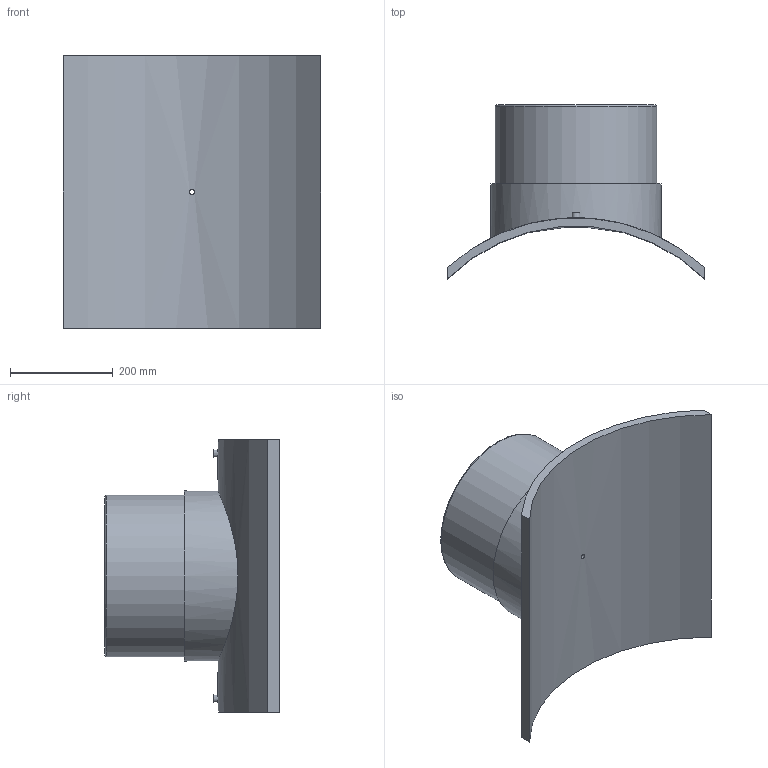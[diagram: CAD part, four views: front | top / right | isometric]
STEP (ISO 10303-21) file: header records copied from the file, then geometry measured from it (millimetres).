
FILE_DESCRIPTION(/* description */ ('PLASSON BRANCH SADDLE 710x315'),/* implementation_level */ '2;1');
FILE_NAME(/* name */ 'C:\Dropbox\KIMPROJECTS-Inventor 2019\99-16-3568-Processing\ElectroFusion Fittings\495803\stp\495803710315T.stp',/* time_stamp */ '2024-04-04T11:56:32+02:00',/* author */ ('KIM'),/* organization */ (''),/* preprocessor_version */ 'ST-DEVELOPER v17.2',/* originating_system */ 'Autodesk Inventor 2019',/* authorisation */ '');
FILE_SCHEMA (('AUTOMOTIVE_DESIGN { 1 0 10303 214 3 1 1 }'));
Length unit declared in the file: millimetre
Products named in the file (1): 495803710315T
Bounding box: 500 x 338.96 x 530 mm (x, y, z)
Volume: 11928406.9 mm3; surface area: 1056483.2 mm2
Topology: 1 solids, 1 shells, 29 faces, 60 edges, 43 vertices
Faces by surface type: plane 13, cylinder 12, torus 2, cone 2
Full cylindrical faces by diameter (mm): 4 x2, 9.6 x1, 10 x2, 16 x1, 252 x1, 315 x1, 330.75 x1
Entity records: 1094 total; most frequent: CARTESIAN_POINT 408, DIRECTION 139, ORIENTED_EDGE 120, EDGE_CURVE 60, AXIS2_PLACEMENT_3D 60, VERTEX_POINT 43, EDGE_LOOP 41, CIRCLE 30
